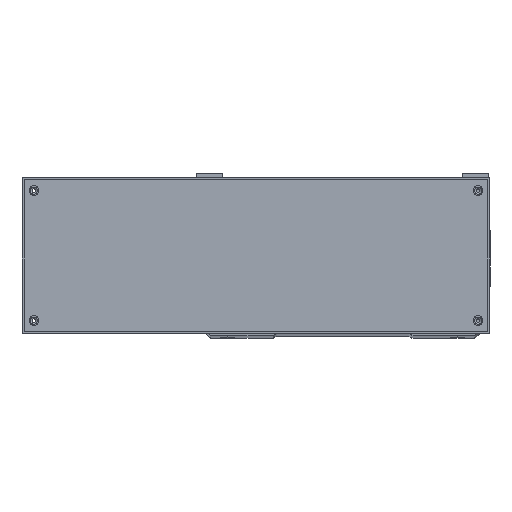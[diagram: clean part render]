
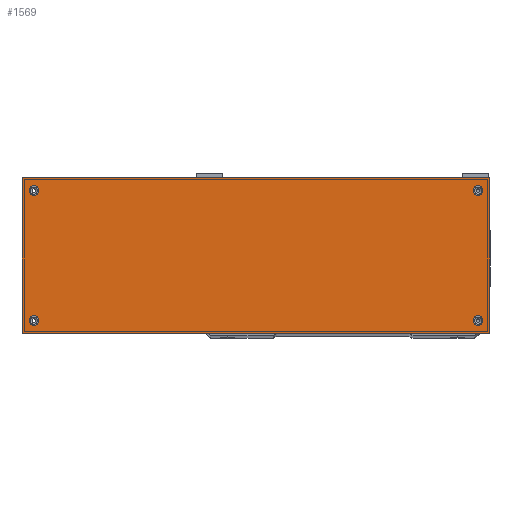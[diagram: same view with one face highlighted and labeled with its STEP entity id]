
A CAD part, top view. The second image highlights one B-rep face of the part: STEP entity #1569.
In plain terms, the highlighted planar face has unit normal (0, 0, 1).
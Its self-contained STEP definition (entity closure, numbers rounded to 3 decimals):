
#1569=ADVANCED_FACE('',(#2747,#2748,#2749,#2750,#2751),#2316,.F.);
#2316=PLANE('',#16266);
#2747=FACE_BOUND('',#3755,.T.);
#2748=FACE_BOUND('',#3756,.T.);
#2749=FACE_BOUND('',#3757,.T.);
#2750=FACE_BOUND('',#3758,.T.);
#2751=FACE_BOUND('',#3759,.T.);
#3755=EDGE_LOOP('',(#8417));
#3756=EDGE_LOOP('',(#8418));
#3757=EDGE_LOOP('',(#8419));
#3758=EDGE_LOOP('',(#8420));
#3759=EDGE_LOOP('',(#8421,#8422,#8423,#8424));
#5174=LINE('',#24052,#6278);
#5191=LINE('',#24085,#6295);
#5300=LINE('',#24990,#6404);
#5307=LINE('',#25007,#6411);
#6278=VECTOR('',#18670,1.);
#6295=VECTOR('',#18697,1.);
#6404=VECTOR('',#19148,1.);
#6411=VECTOR('',#19161,1.);
#8417=ORIENTED_EDGE('',*,*,#13710,.F.);
#8418=ORIENTED_EDGE('',*,*,#13712,.F.);
#8419=ORIENTED_EDGE('',*,*,#13714,.F.);
#8420=ORIENTED_EDGE('',*,*,#13716,.F.);
#8421=ORIENTED_EDGE('',*,*,#13477,.F.);
#8422=ORIENTED_EDGE('',*,*,#13726,.F.);
#8423=ORIENTED_EDGE('',*,*,#13717,.F.);
#8424=ORIENTED_EDGE('',*,*,#13496,.F.);
#11772=VERTEX_POINT('',#24051);
#11773=VERTEX_POINT('',#24053);
#11784=VERTEX_POINT('',#24086);
#11930=VERTEX_POINT('',#24973);
#11932=VERTEX_POINT('',#24978);
#11934=VERTEX_POINT('',#24983);
#11936=VERTEX_POINT('',#24988);
#11937=VERTEX_POINT('',#24991);
#13477=EDGE_CURVE('',#11772,#11773,#5174,.T.);
#13496=EDGE_CURVE('',#11773,#11784,#5191,.T.);
#13710=EDGE_CURVE('',#11930,#11930,#15192,.T.);
#13712=EDGE_CURVE('',#11932,#11932,#15194,.T.);
#13714=EDGE_CURVE('',#11934,#11934,#15196,.T.);
#13716=EDGE_CURVE('',#11936,#11936,#15198,.T.);
#13717=EDGE_CURVE('',#11784,#11937,#5300,.T.);
#13726=EDGE_CURVE('',#11937,#11772,#5307,.T.);
#15192=CIRCLE('',#16251,2.25);
#15194=CIRCLE('',#16254,2.25);
#15196=CIRCLE('',#16257,2.25);
#15198=CIRCLE('',#16260,2.25);
#16251=AXIS2_PLACEMENT_3D('',#24972,#19126,#19127);
#16254=AXIS2_PLACEMENT_3D('',#24977,#19132,#19133);
#16257=AXIS2_PLACEMENT_3D('',#24982,#19138,#19139);
#16260=AXIS2_PLACEMENT_3D('',#24987,#19144,#19145);
#16266=AXIS2_PLACEMENT_3D('',#25014,#19167,#19168);
#18670=DIRECTION('',(0.,-1.,0.));
#18697=DIRECTION('',(-1.,0.,0.));
#19126=DIRECTION('',(0.,0.,1.));
#19127=DIRECTION('',(-1.,0.,0.));
#19132=DIRECTION('',(0.,0.,1.));
#19133=DIRECTION('',(1.,0.,0.));
#19138=DIRECTION('',(0.,0.,1.));
#19139=DIRECTION('',(-1.,0.,0.));
#19144=DIRECTION('',(0.,0.,1.));
#19145=DIRECTION('',(1.,0.,0.));
#19148=DIRECTION('',(0.,1.,0.));
#19161=DIRECTION('',(1.,0.,0.));
#19167=DIRECTION('',(0.,0.,-1.));
#19168=DIRECTION('',(1.,0.,0.));
#24051=CARTESIAN_POINT('',(68.,72.,193.));
#24052=CARTESIAN_POINT('',(68.,72.,193.));
#24053=CARTESIAN_POINT('',(68.,0.,193.));
#24085=CARTESIAN_POINT('',(68.,0.,193.));
#24086=CARTESIAN_POINT('',(-148.,0.,193.));
#24972=CARTESIAN_POINT('',(-142.5,6.,193.));
#24973=CARTESIAN_POINT('',(-144.75,6.,193.));
#24977=CARTESIAN_POINT('',(62.5,6.,193.));
#24978=CARTESIAN_POINT('',(64.75,6.,193.));
#24982=CARTESIAN_POINT('',(62.5,66.,193.));
#24983=CARTESIAN_POINT('',(60.25,66.,193.));
#24987=CARTESIAN_POINT('',(-142.5,66.,193.));
#24988=CARTESIAN_POINT('',(-140.25,66.,193.));
#24990=CARTESIAN_POINT('',(-148.,72.,193.));
#24991=CARTESIAN_POINT('',(-148.,72.,193.));
#25007=CARTESIAN_POINT('',(68.,72.,193.));
#25014=CARTESIAN_POINT('',(-40.,36.,193.));
